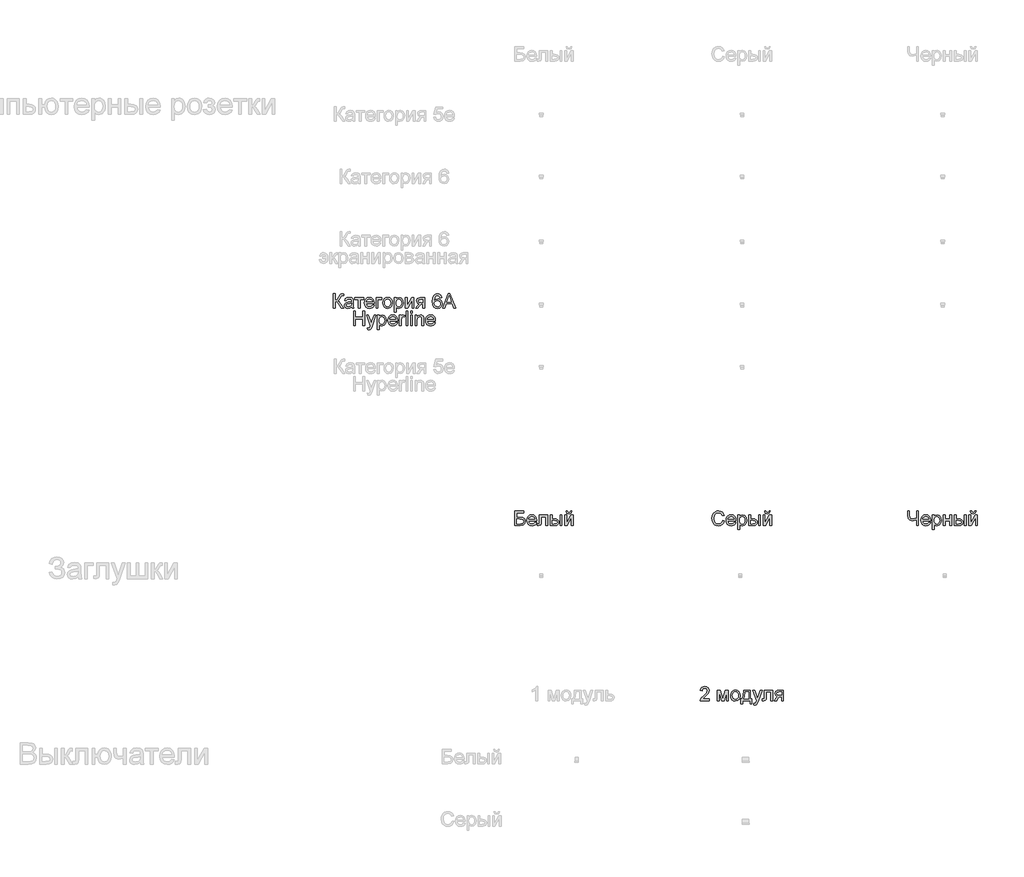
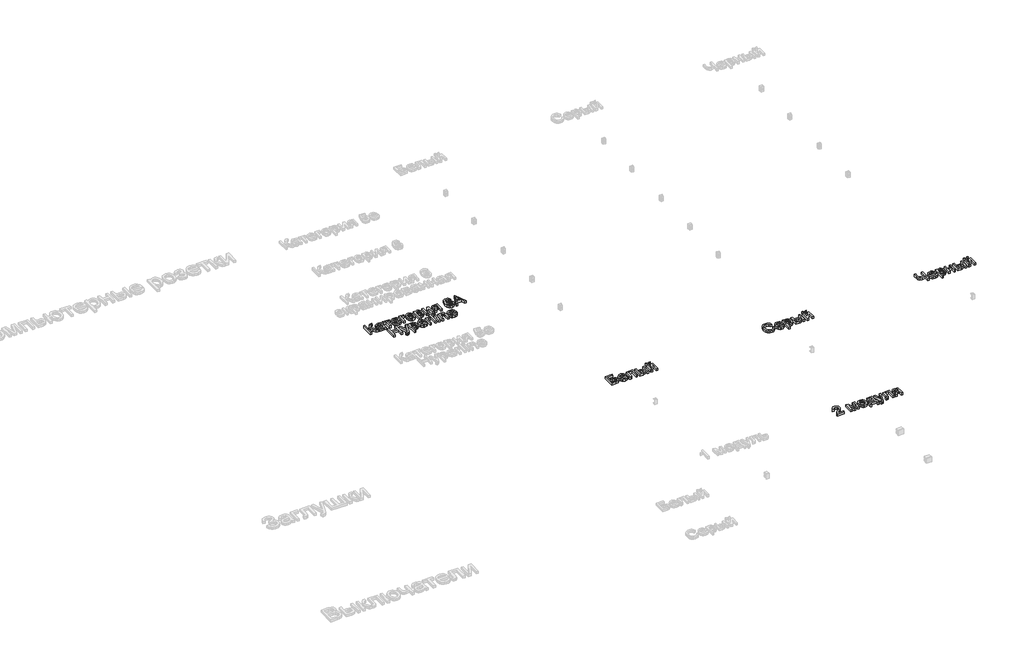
# One storey, part 7 of 15: 5 proxies.
"""IFC4 building model written with IfcOpenShell, lengths in millimetres."""

from ifc_helpers import new_model, si_unit, origin, origin_with_axes, place, context, project, spatial, polyline, outline, extrude, element, save

model = new_model("IFC4")

# Units and contexts
model_context = context("Model", 3, world=origin())
ifc_project = project(units=[si_unit("LENGTHUNIT", "METRE", prefix="MILLI")], contexts=[model_context])

# Site, building, storey
site = spatial("IfcSite", under=ifc_project)
building = spatial("IfcBuilding", under=site)
storey = spatial("IfcBuildingStorey", under=building, Name="Этаж 01", Elevation=0.0)

# Proxies
placement = place(None, origin())
element("IfcBuildingElementProxy", 1, Name="100 мм Arial", ObjectType="100 мм Arial", at=placement, inside=storey, context=model_context, shape_type="SweptSolid", body=[
    extrude(outline(polyline([(2682.1667539, -9736.1300533), (2682.1667539, -9748.687092), (2616.2423003, -9748.687092), (2617.591201, -9740.0296024), (2625.218621, -9726.7000115), (2640.9394449, -9712.1441472), (2662.6199572, -9691.2239244), (2668.0400853, -9676.9991539), (2662.9265255, -9665.4844475), (2649.5724091, -9660.7878207), (2635.6542069, -9665.3740829), (2630.368969, -9678.053749), (2617.8119302, -9676.4841191), (2620.8561537, -9664.3378819), (2627.4381757, -9655.4657945), (2637.2146397, -9650.039535), (2649.8421892, -9648.2307819), (2662.5617092, -9650.2418701), (2672.3197791, -9656.2751349), (2678.5277878, -9665.2882437), (2680.597124, -9676.2388645), (2678.3653066, -9688.1459784), (2670.946353, -9700.4577625), (2652.9569235, -9717.6623771), (2638.5114238, -9729.7411693), (2632.8460411, -9736.1300533), (2682.1667539, -9736.1300533)])), origin_with_axes(), (0.0, 0.0, 1.0), 20.0),
    extrude(outline(polyline([(2737.1037985, -9674.9144893), (2758.7107343, -9674.9144893), (2775.363526, -9733.9718122), (2793.3161673, -9674.9144893), (2814.0156609, -9674.9144893), (2814.0156609, -9748.687092), (2801.4586222, -9748.687092), (2801.4586222, -9689.2864126), (2783.4078789, -9748.687092), (2766.9267656, -9748.687092), (2749.6608373, -9686.4414585), (2749.6608373, -9748.687092), (2737.1037985, -9748.687092), (2737.1037985, -9674.9144893)])), origin_with_axes(), (0.0, 0.0, 1.0), 20.0),
    extrude(outline(polyline([(2829.7119594, -9711.8007907), (2832.4281548, -9694.0136962), (2840.576741, -9681.5118397), (2850.6444449, -9675.3866045), (2862.6987116, -9673.3448594), (2875.8903468, -9675.8311286), (2886.4271003, -9683.289936), (2893.3340848, -9695.1326706), (2895.6364129, -9710.7707211), (2891.5651855, -9733.1134209), (2879.7071225, -9745.7562988), (2862.6987116, -9750.2567219), (2849.3476609, -9747.7796498), (2838.8231702, -9740.3484335), (2831.9897621, -9728.2573786), (2829.7119594, -9711.8007907)]), holes=[polyline([(2842.2689982, -9711.7762652), (2843.7221321, -9723.1407532), (2848.0815337, -9731.2372227), (2854.6420959, -9736.084068), (2862.6987116, -9737.6996831), (2870.7185391, -9736.074871), (2877.2668386, -9731.2004345), (2881.6262403, -9722.9966661), (2883.0793742, -9711.3838577), (2881.6170432, -9700.3504636), (2877.2300504, -9692.3643586), (2870.6725539, -9687.5175133), (2862.6987116, -9685.9018982), (2854.6420959, -9687.5113819), (2848.0815337, -9692.3398331), (2843.7221321, -9700.4179086), (2842.2689982, -9711.7762652)])]), origin_with_axes(), (0.0, 0.0, 1.0), 20.0),
    extrude(outline(polyline([(2920.7504905, -9674.9144893), (2967.8393859, -9674.9144893), (2967.8393859, -9736.1300533), (2977.2571649, -9736.1300533), (2977.2571649, -9769.09228), (2964.7001262, -9769.09228), (2964.7001262, -9748.687092), (2912.9023412, -9748.687092), (2912.9023412, -9769.09228), (2900.3453025, -9769.09228), (2900.3453025, -9736.1300533), (2908.1934517, -9736.1300533), (2917.8932736, -9712.1809354), (2920.7504905, -9674.9144893)]), holes=[polyline([(2931.7378994, -9687.4715281), (2928.7948434, -9716.0804845), (2922.3201203, -9736.1300533), (2955.2823471, -9736.1300533), (2955.2823471, -9687.4715281), (2931.7378994, -9687.4715281)])]), origin_with_axes(), (0.0, 0.0, 1.0), 20.0),
    extrude(outline(polyline([(2991.3838336, -9776.9404293), (2989.8142037, -9764.8493744), (2996.190825, -9765.9530204), (3002.1505133, -9764.5673315), (3005.8048078, -9760.7045706), (3009.2383731, -9751.4584697), (3010.2193917, -9748.4173119), (2983.5356843, -9674.9144893), (2996.7794361, -9674.9144893), (3010.9306302, -9715.8720181), (3015.860249, -9732.2550296), (3020.7898677, -9717.7850045), (3035.3334692, -9674.9144893), (3048.4791192, -9674.9144893), (3022.8009559, -9750.4529256), (3016.1300291, -9766.8359371), (3008.8459656, -9775.6896305), (2999.0603045, -9778.5100591), (2991.3838336, -9776.9404293)])), origin_with_axes(), (0.0, 0.0, 1.0), 20.0),
    extrude(outline(polyline([(3065.1564363, -9674.9144893), (3121.6631108, -9674.9144893), (3121.6631108, -9748.6135156), (3109.106072, -9748.6135156), (3109.106072, -9687.4715281), (3077.7134751, -9687.4715281), (3077.7134751, -9722.6655723), (3076.8673465, -9738.901431), (3072.2197706, -9745.7562988), (3061.2323617, -9748.687092), (3051.0297677, -9748.0494299), (3051.0297677, -9736.1300533), (3056.6460995, -9736.1300533), (3062.323745, -9735.3575011), (3064.5923506, -9732.9049545), (3065.1564363, -9721.9543337), (3065.1564363, -9674.9144893)])), origin_with_axes(), (0.0, 0.0, 1.0), 20.0),
    extrude(outline(polyline([(3197.0053434, -9674.9144893), (3197.0053434, -9748.687092), (3184.4483046, -9748.687092), (3184.4483046, -9720.4337548), (3177.6056995, -9720.4337548), (3168.2860223, -9722.0279101), (3159.5304308, -9732.7455389), (3149.5240405, -9748.687092), (3135.0049645, -9748.687092), (3147.6110542, -9728.5271587), (3158.3041575, -9718.0793101), (3149.7202443, -9715.4489538), (3143.6869796, -9710.45189), (3138.9290391, -9696.2271195), (3140.5538512, -9687.6309436), (3145.4282877, -9680.8251267), (3153.3806701, -9676.3921486), (3164.2393204, -9674.9144893), (3197.0053434, -9674.9144893)]), holes=[polyline([(3184.4483046, -9687.4715281), (3167.8936148, -9687.4715281), (3154.4904475, -9690.3777958), (3151.4860779, -9697.1836127), (3155.9129245, -9705.2892794), (3171.5969603, -9707.8767161), (3184.4483046, -9707.8767161), (3184.4483046, -9687.4715281)])]), origin_with_axes(), (0.0, 0.0, 1.0), 20.0),
])
element("IfcBuildingElementProxy", 2, Name="100 мм Arial", ObjectType="100 мм Arial", at=placement, inside=storey, context=model_context, shape_type="SweptSolid", body=[
    extrude(outline(polyline([(59.61125, -6908.8364021), (72.1682888, -6908.8364021), (72.1682888, -6952.7860378), (86.2091183, -6949.4628371), (96.0070421, -6932.6506299), (102.9354863, -6918.6098004), (110.7836356, -6911.6568307), (122.0040364, -6908.8364021), (130.2445931, -6908.9835549), (130.2445931, -6921.5405937), (127.4732154, -6921.4670173), (124.7018377, -6921.3934409), (114.8916512, -6924.4100732), (107.4359094, -6937.334994), (98.5454279, -6953.0803434), (89.8756755, -6958.2797423), (99.5693661, -6963.9573877), (109.1281666, -6975.7909252), (130.2445931, -7009.2927123), (115.6764661, -7009.2927123), (97.8219266, -6980.9903241), (85.2526251, -6966.2137306), (72.1682888, -6962.2038169), (72.1682888, -7009.2927123), (59.61125, -7009.2927123), (59.61125, -6908.8364021)])), origin_with_axes(), (0.0, 0.0, 1.0), 20.0),
    extrude(outline(polyline([(186.7512676, -6999.8749332), (174.5743735, -7008.38527), (161.1221552, -7010.8623421), (150.6283213, -7009.37242), (142.887471, -7004.9026538), (138.1142021, -6998.115231), (136.5231125, -6989.6723392), (138.9266082, -6979.7395253), (145.2419158, -6972.5290382), (154.0342955, -6968.4087599), (164.8990771, -6966.520299), (186.6776912, -6962.2038169), (186.7512676, -6959.4079137), (183.2931768, -6950.1372874), (169.4117629, -6946.5075184), (156.7075713, -6948.9232768), (150.6497811, -6957.4949273), (138.0927423, -6955.9252975), (143.5251331, -6943.6625643), (154.4634911, -6936.4766027), (171.0304436, -6933.9504796), (186.2484955, -6936.1822971), (194.8446715, -6941.7863661), (198.6951697, -6950.3089657), (199.3083063, -6961.2963746), (199.3083063, -6976.9190967), (199.9459685, -6998.734499), (202.447566, -7009.2927123), (189.8905273, -7009.2927123), (186.7512676, -6999.8749332)]), holes=[polyline([(186.7512676, -6974.7608556), (166.4932324, -6978.6113539), (155.6897644, -6980.6469676), (150.7969339, -6983.9579055), (149.0801513, -6988.7894224), (152.8202849, -6995.5829766), (163.7954311, -6998.3053033), (176.4996226, -6995.3009337), (184.6911284, -6988.0291329), (186.6776912, -6978.3170483), (186.7512676, -6974.7608556)])]), origin_with_axes(), (0.0, 0.0, 1.0), 20.0),
    extrude(outline(polyline([(210.2957153, -6935.5201095), (269.9416494, -6935.5201095), (269.9416494, -6948.0771483), (246.3972017, -6948.0771483), (246.3972017, -7009.2927123), (233.8401629, -7009.2927123), (233.8401629, -6948.0771483), (210.2957153, -6948.0771483), (210.2957153, -6935.5201095)])), origin_with_axes(), (0.0, 0.0, 1.0), 20.0),
    extrude(outline(polyline([(332.5796905, -6987.3178944), (344.8914746, -6988.8875243), (340.4554308, -6998.1642819), (333.3767681, -7005.0988575), (323.8149019, -7009.421471), (311.9292478, -7010.8623421), (297.1955739, -7008.376073), (285.8586771, -7000.9172655), (278.6297959, -6988.9702977), (276.2201688, -6973.0195475), (278.6543213, -6956.5323028), (285.9567789, -6944.2021246), (297.1403916, -6936.5133909), (311.2180093, -6933.9504796), (324.8572342, -6936.5072595), (335.7557383, -6944.1775991), (342.9018461, -6956.4832519), (345.283882, -6972.9459711), (345.2103056, -6976.3304855), (288.7772076, -6976.3304855), (290.950777, -6985.7298705), (295.9999574, -6992.6399206), (303.2870866, -6996.8889577), (312.1745025, -6998.3053033), (324.4862866, -6995.6810784), (332.5796905, -6987.3178944)]), holes=[polyline([(288.7772076, -6963.7734467), (332.7268433, -6963.7734467), (327.6991227, -6952.3936303), (320.3782709, -6947.9790464), (311.1689583, -6946.5075184), (295.7056518, -6951.2041452), (290.8404124, -6956.694784), (288.7772076, -6963.7734467)])]), origin_with_axes(), (0.0, 0.0, 1.0), 20.0),
    extrude(outline(polyline([(357.8409208, -6935.5201095), (398.6512968, -6935.5201095), (398.6512968, -6948.0771483), (370.3979596, -6948.0771483), (370.3979596, -7009.2927123), (357.8409208, -7009.2927123), (357.8409208, -6935.5201095)])), origin_with_axes(), (0.0, 0.0, 1.0), 20.0),
    extrude(outline(polyline([(404.9298162, -6972.4064109), (407.6460116, -6954.6193164), (415.7945978, -6942.1174599), (425.8623017, -6935.9922247), (437.9165684, -6933.9504796), (451.1082036, -6936.4367488), (461.6449571, -6943.8955562), (468.5519416, -6955.7382908), (470.8542697, -6971.3763413), (466.7830423, -6993.7190411), (454.9249793, -7006.361919), (437.9165684, -7010.8623421), (424.5655177, -7008.38527), (414.0410269, -7000.9540537), (407.2076189, -6988.8629988), (404.9298162, -6972.4064109)]), holes=[polyline([(417.4868549, -6972.3818854), (418.9399888, -6983.7463734), (423.2993905, -6991.842843), (429.8599527, -6996.6896882), (437.9165684, -6998.3053033), (445.9363959, -6996.6804912), (452.4846954, -6991.8060548), (456.8440971, -6983.6022863), (458.2972309, -6971.9894779), (456.8349, -6960.9560838), (452.4479072, -6952.9699788), (445.8904107, -6948.1231335), (437.9165684, -6946.5075184), (429.8599527, -6948.1170021), (423.2993905, -6952.9454533), (418.9399888, -6961.0235288), (417.4868549, -6972.3818854)])]), origin_with_axes(), (0.0, 0.0, 1.0), 20.0),
    extrude(outline(polyline([(484.9809383, -7037.5460495), (484.9809383, -6935.5201095), (497.5379771, -6935.5201095), (497.5379771, -6947.8318936), (506.2199922, -6937.4208331), (517.9431651, -6933.9504796), (533.8601927, -6938.806522), (544.2589905, -6952.4917322), (547.7661322, -6971.8423251), (543.8052694, -6992.1861995), (532.3028256, -7006.043088), (516.4225862, -7010.8623421), (505.4964909, -7007.6372433), (497.5379771, -6999.4825257), (497.5379771, -7037.5460495), (484.9809383, -7037.5460495)]), holes=[polyline([(497.5379771, -6972.9950221), (498.8960748, -6984.2522111), (502.9703679, -6992.1248858), (508.9821728, -6996.760199), (516.152806, -6998.3053033), (523.4399352, -6996.7050167), (529.6050243, -6991.9041566), (533.8080761, -6983.7433077), (535.2090934, -6972.0630543), (533.8417986, -6960.867179), (529.7399144, -6952.8841397), (523.7373065, -6948.1016737), (516.6678408, -6946.5075184), (509.570784, -6948.2028413), (503.3382499, -6953.2888099), (498.9880453, -6961.6060086), (497.5379771, -6972.9950221)])]), origin_with_axes(), (0.0, 0.0, 1.0), 20.0),
    extrude(outline(polyline([(561.8928008, -6935.5201095), (574.4498395, -6935.5201095), (574.4498395, -6991.7815293), (605.3028762, -6935.5201095), (621.5387349, -6935.5201095), (621.5387349, -7009.2927123), (608.9816962, -7009.2927123), (608.9816962, -6953.374649), (578.3248632, -7009.2927123), (561.8928008, -7009.2927123), (561.8928008, -6935.5201095)])), origin_with_axes(), (0.0, 0.0, 1.0), 20.0),
    extrude(outline(polyline([(696.8809675, -6935.5201095), (696.8809675, -7009.2927123), (684.3239288, -7009.2927123), (684.3239288, -6981.039375), (677.4813237, -6981.039375), (668.1616465, -6982.6335303), (659.406055, -6993.3511591), (649.3996647, -7009.2927123), (634.8805886, -7009.2927123), (647.4866783, -6989.1327789), (658.1797817, -6978.6849303), (649.5958684, -6976.054574), (643.5626037, -6971.0575102), (638.8046632, -6956.8327397), (640.4294754, -6948.2365638), (645.3039118, -6941.4307469), (653.2562943, -6936.9977688), (664.1149445, -6935.5201095), (696.8809675, -6935.5201095)]), holes=[polyline([(684.3239288, -6948.0771483), (667.769239, -6948.0771483), (654.3660716, -6950.983416), (651.361702, -6957.7892329), (655.7885487, -6965.8948996), (671.4725844, -6968.4823363), (684.3239288, -6968.4823363), (684.3239288, -6948.0771483)])]), origin_with_axes(), (0.0, 0.0, 1.0), 20.0),
    extrude(outline(polyline([(816.1728358, -6935.5201095), (803.6157971, -6937.0897393), (798.8578566, -6926.6173652), (786.2762924, -6921.3934409), (774.9455269, -6924.4345987), (766.3738764, -6935.8512033), (762.8054211, -6958.2306913), (773.8786691, -6948.2120383), (787.6006676, -6944.9378886), (799.2012131, -6947.1758374), (808.9378233, -6953.8896838), (815.5413051, -6964.1474601), (817.7424657, -6977.0171985), (813.5976619, -6994.3444405), (802.19332, -7006.6071737), (785.7367321, -7010.8623421), (771.4905018, -7008.0419135), (760.144408, -6999.5806276), (752.7223887, -6984.6446186), (750.2483823, -6962.4000206), (752.9952345, -6937.3901763), (761.2357912, -6920.2897949), (772.4868489, -6911.6997503), (787.0611073, -6908.8364021), (798.0791731, -6910.6083671), (806.9022096, -6915.9242619), (813.0826271, -6924.3671537), (816.1728358, -6935.5201095)]), holes=[polyline([(762.8054211, -6976.8209948), (765.7116888, -6987.6980391), (773.4372107, -6995.5952393), (784.7557135, -6998.3053033), (793.0422554, -6996.9012204), (799.5568324, -6992.6889715), (803.7782783, -6986.0670956), (805.1854269, -6977.4341315), (803.7966724, -6969.1475895), (799.6304088, -6962.8292163), (793.0054672, -6958.8284996), (784.2406787, -6957.4949273), (769.0471523, -6962.8292163), (764.3658539, -6968.9943054), (762.8054211, -6976.8209948)])]), origin_with_axes(), (0.0, 0.0, 1.0), 20.0),
    extrude(outline(polyline([(821.7401167, -7009.2927123), (861.8392542, -6908.8364021), (872.5323575, -6908.8364021), (912.631495, -7009.2927123), (899.3632177, -7009.2927123), (887.860774, -6977.9001153), (846.4863122, -6977.9001153), (835.008394, -7009.2927123), (821.7401167, -7009.2927123)]), holes=[polyline([(851.0970999, -6965.3430766), (883.2745118, -6965.3430766), (874.2246147, -6940.645932), (867.1858058, -6921.3934409), (860.9318119, -6938.4876909), (851.0970999, -6965.3430766)])]), origin_with_axes(), (0.0, 0.0, 1.0), 20.0),
    extrude(outline(polyline([(200.0931213, -7131.2675301), (200.0931213, -7030.81122), (212.65016, -7030.81122), (212.65016, -7071.621596), (266.0175748, -7071.621596), (266.0175748, -7030.81122), (278.5746136, -7030.81122), (278.5746136, -7131.2675301), (266.0175748, -7131.2675301), (266.0175748, -7084.1786347), (212.65016, -7084.1786347), (212.65016, -7131.2675301), (200.0931213, -7131.2675301)])), origin_with_axes(), (0.0, 0.0, 1.0), 20.0),
    extrude(outline(polyline([(298.9798016, -7159.5208673), (297.4101717, -7147.4298124), (303.786793, -7148.5334584), (309.7464813, -7147.1477696), (313.4007758, -7143.2850086), (316.8343411, -7134.0389078), (317.8153597, -7130.99775), (291.1316523, -7057.4949273), (304.3754042, -7057.4949273), (318.5265982, -7098.4524561), (323.456217, -7114.8354677), (328.3858357, -7100.3654425), (342.9294373, -7057.4949273), (356.0750872, -7057.4949273), (330.3969239, -7133.0333637), (323.7259971, -7149.4163752), (316.4419336, -7158.2700685), (306.6562725, -7161.0904972), (298.9798016, -7159.5208673)])), origin_with_axes(), (0.0, 0.0, 1.0), 20.0),
    extrude(outline(polyline([(366.4738849, -7159.5208673), (366.4738849, -7057.4949273), (379.0309237, -7057.4949273), (379.0309237, -7069.8067114), (387.7129388, -7059.395651), (399.4361117, -7055.9252975), (415.3531394, -7060.7813398), (425.7519371, -7074.46655), (429.2590788, -7093.817143), (425.298216, -7114.1610173), (413.7957723, -7128.0179058), (397.9155328, -7132.8371599), (386.9894375, -7129.6120611), (379.0309237, -7121.4573436), (379.0309237, -7159.5208673), (366.4738849, -7159.5208673)]), holes=[polyline([(379.0309237, -7094.9698399), (380.3890214, -7106.227029), (384.4633145, -7114.0997037), (390.4751194, -7118.7350168), (397.6457527, -7120.2801212), (404.9328819, -7118.6798345), (411.097971, -7113.8789745), (415.3010228, -7105.7181255), (416.70204, -7094.0378722), (415.3347453, -7082.8419968), (411.232861, -7074.8589575), (405.2302531, -7070.0764916), (398.1607875, -7068.4823363), (391.0637306, -7070.1776591), (384.8311965, -7075.2636277), (380.4809919, -7083.5808265), (379.0309237, -7094.9698399)])]), origin_with_axes(), (0.0, 0.0, 1.0), 20.0),
    extrude(outline(polyline([(495.0363795, -7109.2927123), (507.3481636, -7110.8623421), (502.9121199, -7120.1390997), (495.8334572, -7127.0736754), (486.271591, -7131.3962888), (474.3859369, -7132.8371599), (459.652263, -7130.3508908), (448.3153661, -7122.8920833), (441.0864849, -7110.9451156), (438.6768579, -7094.9943654), (441.1110104, -7078.5071206), (448.413468, -7066.1769424), (459.5970807, -7058.4882087), (473.6746983, -7055.9252975), (487.3139233, -7058.4820774), (498.2124274, -7066.152417), (505.3585352, -7078.4580697), (507.7405711, -7094.920789), (507.6669947, -7098.3053033), (451.2338966, -7098.3053033), (453.4074661, -7107.7046883), (458.4566465, -7114.6147385), (465.7437757, -7118.8637755), (474.6311915, -7120.2801212), (486.9429756, -7117.6558963), (495.0363795, -7109.2927123)]), holes=[polyline([(451.2338966, -7085.7482646), (495.1835323, -7085.7482646), (490.1558117, -7074.3684482), (482.83496, -7069.9538642), (473.6256474, -7068.4823363), (458.1623409, -7073.1789631), (453.2971015, -7078.6696018), (451.2338966, -7085.7482646)])]), origin_with_axes(), (0.0, 0.0, 1.0), 20.0),
    extrude(outline(polyline([(520.2976099, -7131.2675301), (520.2976099, -7057.4949273), (531.2850188, -7057.4949273), (531.2850188, -7068.4087599), (539.0841171, -7058.3533187), (546.9322663, -7055.9252975), (559.538356, -7059.8003212), (555.3445013, -7071.0575102), (546.5153334, -7068.4823363), (539.4152109, -7070.9594084), (534.8902623, -7077.8265389), (532.8546486, -7092.4927678), (532.8546486, -7131.2675301), (520.2976099, -7131.2675301)])), origin_with_axes(), (0.0, 0.0, 1.0), 20.0),
    extrude(outline(polyline([(567.3865052, -7131.2675301), (567.3865052, -7030.81122), (579.943544, -7030.81122), (579.943544, -7131.2675301), (567.3865052, -7131.2675301)])), origin_with_axes(), (0.0, 0.0, 1.0), 20.0),
    extrude(outline(polyline([(598.7791022, -7043.3682587), (598.7791022, -7030.81122), (611.3361409, -7030.81122), (611.3361409, -7043.3682587), (598.7791022, -7043.3682587)])), origin_with_axes(), (0.0, 0.0, 1.0), 20.0),
    extrude(outline(polyline([(598.7791022, -7131.2675301), (598.7791022, -7057.4949273), (611.3361409, -7057.4949273), (611.3361409, -7131.2675301), (598.7791022, -7131.2675301)])), origin_with_axes(), (0.0, 0.0, 1.0), 20.0),
    extrude(outline(polyline([(630.1716991, -7131.2675301), (630.1716991, -7057.4949273), (642.7287379, -7057.4949273), (642.7287379, -7067.7956232), (652.3304579, -7058.8928789), (665.4393197, -7055.9252975), (677.2973827, -7058.3165305), (685.3907866, -7064.5950498), (689.1554456, -7073.8288879), (689.8176332, -7085.9689938), (689.8176332, -7131.2675301), (677.2605945, -7131.2675301), (677.2605945, -7087.6612509), (675.813592, -7076.5512147), (670.7000322, -7070.6773655), (662.0793308, -7068.4823363), (648.4554342, -7073.411955), (644.160412, -7080.5549971), (642.7287379, -7092.1248858), (642.7287379, -7131.2675301), (630.1716991, -7131.2675301)])), origin_with_axes(), (0.0, 0.0, 1.0), 20.0),
    extrude(outline(polyline([(758.7341937, -7109.2927123), (771.0459778, -7110.8623421), (766.609934, -7120.1390997), (759.5312713, -7127.0736754), (749.9694051, -7131.3962888), (738.083751, -7132.8371599), (723.3500771, -7130.3508908), (712.0131803, -7122.8920833), (704.7842991, -7110.9451156), (702.374672, -7094.9943654), (704.8088245, -7078.5071206), (712.1112821, -7066.1769424), (723.2948948, -7058.4882087), (737.3725125, -7055.9252975), (751.0117375, -7058.4820774), (761.9102416, -7066.152417), (769.0563493, -7078.4580697), (771.4383852, -7094.920789), (771.3648088, -7098.3053033), (714.9317108, -7098.3053033), (717.1052802, -7107.7046883), (722.1544606, -7114.6147385), (729.4415898, -7118.8637755), (738.3290057, -7120.2801212), (750.6407898, -7117.6558963), (758.7341937, -7109.2927123)]), holes=[polyline([(714.9317108, -7085.7482646), (758.8813465, -7085.7482646), (753.8536259, -7074.3684482), (746.5327742, -7069.9538642), (737.3234615, -7068.4823363), (721.860155, -7073.1789631), (716.9949156, -7078.6696018), (714.9317108, -7085.7482646)])]), origin_with_axes(), (0.0, 0.0, 1.0), 20.0),
])
element("IfcBuildingElementProxy", 3, Name="100 мм Arial", ObjectType="100 мм Arial", at=placement, inside=storey, context=model_context, shape_type="SweptSolid", body=[
    extrude(outline(polyline([(1324.163946, -8425.4028777), (1386.9491399, -8425.4028777), (1386.9491399, -8437.9599165), (1336.7209848, -8437.9599165), (1336.7209848, -8467.7828835), (1360.240907, -8467.7828835), (1380.9649261, -8470.333532), (1393.3012356, -8479.9720403), (1397.9365488, -8496.4531537), (1394.6378736, -8510.7637633), (1384.7908988, -8521.6408076), (1362.4972499, -8525.8591879), (1324.163946, -8525.8591879), (1324.163946, -8425.4028777)]), holes=[polyline([(1336.7209848, -8513.3021491), (1363.6254214, -8513.3021491), (1379.9348565, -8509.1573453), (1384.0183466, -8503.9763405), (1385.37951, -8496.7229338), (1382.2647758, -8486.8882218), (1373.5950234, -8481.639772), (1354.6736262, -8480.3399223), (1336.7209848, -8480.3399223), (1336.7209848, -8513.3021491)])]), origin_with_axes(), (0.0, 0.0, 1.0), 20.0),
    extrude(outline(polyline([(1465.2834794, -8503.88437), (1477.5952635, -8505.4539999), (1473.1592198, -8514.7307575), (1466.080557, -8521.6653331), (1456.5186908, -8525.9879466), (1444.6330367, -8527.4288177), (1429.8993628, -8524.9425485), (1418.562466, -8517.4837411), (1411.3335848, -8505.5367733), (1408.9239577, -8489.5860231), (1411.3581102, -8473.0987784), (1418.6605678, -8460.7686002), (1429.8441805, -8453.0798665), (1443.9217982, -8450.5169552), (1457.5610232, -8453.0737351), (1468.4595273, -8460.7440747), (1475.605635, -8473.0497274), (1477.9876709, -8489.5124467), (1477.9140945, -8492.8969611), (1421.4809965, -8492.8969611), (1423.6545659, -8502.2963461), (1428.7037463, -8509.2063962), (1435.9908755, -8513.4554332), (1444.8782914, -8514.8717789), (1457.1900755, -8512.247554), (1465.2834794, -8503.88437)]), holes=[polyline([(1421.4809965, -8480.3399223), (1465.4306322, -8480.3399223), (1460.4029116, -8468.9601059), (1453.0820599, -8464.545522), (1443.8727473, -8463.073994), (1428.4094407, -8467.7706208), (1423.5442013, -8473.2612596), (1421.4809965, -8480.3399223)])]), origin_with_axes(), (0.0, 0.0, 1.0), 20.0),
    extrude(outline(polyline([(1496.8232291, -8452.0865851), (1553.3299035, -8452.0865851), (1553.3299035, -8525.7856115), (1540.7728648, -8525.7856115), (1540.7728648, -8464.6436239), (1509.3802679, -8464.6436239), (1509.3802679, -8499.8376681), (1508.5341393, -8516.0735268), (1503.8865634, -8522.9283946), (1492.8991545, -8525.8591879), (1482.6965605, -8525.2215257), (1482.6965605, -8513.3021491), (1488.3128923, -8513.3021491), (1493.9905377, -8512.5295969), (1496.2591434, -8510.0770503), (1496.8232291, -8499.1264295), (1496.8232291, -8452.0865851)])), origin_with_axes(), (0.0, 0.0, 1.0), 20.0),
    extrude(outline(polyline([(1641.2291749, -8452.0865851), (1653.7862137, -8452.0865851), (1653.7862137, -8525.8591879), (1641.2291749, -8525.8591879), (1641.2291749, -8452.0865851)])), origin_with_axes(), (0.0, 0.0, 1.0), 20.0),
    extrude(outline(polyline([(1572.1654617, -8452.0865851), (1584.7225005, -8452.0865851), (1584.7225005, -8478.7702925), (1600.2471207, -8478.7702925), (1613.6656164, -8480.342988), (1623.6076274, -8485.0610746), (1629.7604537, -8492.5444075), (1631.8113959, -8502.412842), (1630.0915475, -8511.3983598), (1624.9320025, -8518.9797945), (1615.9955357, -8524.1393395), (1602.944922, -8525.8591879), (1572.1654617, -8525.8591879), (1572.1654617, -8452.0865851)]), holes=[polyline([(1584.7225005, -8513.3021491), (1597.6228958, -8513.3021491), (1614.2756874, -8510.6656615), (1619.2543571, -8502.4373675), (1615.5632744, -8494.7118456), (1599.266102, -8491.3273312), (1584.7225005, -8491.3273312), (1584.7225005, -8513.3021491)])]), origin_with_axes(), (0.0, 0.0, 1.0), 20.0),
    extrude(outline(polyline([(1672.6217719, -8452.0865851), (1685.1788106, -8452.0865851), (1685.1788106, -8508.3480049), (1716.0318473, -8452.0865851), (1732.267706, -8452.0865851), (1732.267706, -8525.8591879), (1719.7106672, -8525.8591879), (1719.7106672, -8469.9411246), (1689.0538343, -8525.8591879), (1672.6217719, -8525.8591879), (1672.6217719, -8452.0865851)])), origin_with_axes(), (0.0, 0.0, 1.0), 20.0),
    extrude(outline(polyline([(1713.4321479, -8425.4028777), (1722.8499269, -8425.4028777), (1716.7553485, -8439.3701308), (1703.2295539, -8444.2384359), (1688.5878504, -8439.406919), (1682.0395509, -8425.4028777), (1691.45733, -8425.4028777), (1694.9889972, -8432.4784747), (1702.1013824, -8434.8206568), (1709.9004807, -8432.5520511), (1713.4321479, -8425.4028777)])), origin_with_axes(), (0.0, 0.0, 1.0), 20.0),
])
element("IfcBuildingElementProxy", 4, Name="100 мм Arial", ObjectType="100 мм Arial", at=placement, inside=storey, context=model_context, shape_type="SweptSolid", body=[
    extrude(outline(polyline([(2773.9900999, -8490.1501089), (2786.5471386, -8493.3874704), (2780.7529972, -8508.0199768), (2771.6601806, -8518.7100144), (2759.7162785, -8525.2491169), (2745.3688806, -8527.4288177), (2730.8038193, -8525.7794801), (2719.2369963, -8520.8314673), (2710.3710402, -8512.7564575), (2703.9085798, -8501.726129), (2698.6478673, -8474.8707433), (2700.1347237, -8460.2229085), (2704.5952928, -8447.5738993), (2711.7965829, -8437.32532), (2721.5056019, -8429.8787753), (2733.0203083, -8425.3446297), (2745.6386608, -8423.8332479), (2759.4066444, -8425.7891538), (2770.7895265, -8431.6568716), (2779.4316877, -8441.0746507), (2784.9775088, -8453.6807404), (2772.42047, -8456.6728473), (2762.1197742, -8441.2340662), (2745.1481514, -8436.3902866), (2725.5032529, -8441.7613638), (2714.4054794, -8456.182338), (2711.204906, -8474.8462179), (2714.9940906, -8496.4776792), (2726.7908399, -8510.2977795), (2744.1180819, -8514.8717789), (2754.599653, -8513.3144118), (2763.3337847, -8508.6423105), (2769.9280695, -8500.9045258), (2773.9900999, -8490.1501089)])), origin_with_axes(), (0.0, 0.0, 1.0), 20.0),
    extrude(outline(polyline([(2853.8940692, -8503.88437), (2866.2058533, -8505.4539999), (2861.7698096, -8514.7307575), (2854.6911469, -8521.6653331), (2845.1292807, -8525.9879466), (2833.2436266, -8527.4288177), (2818.5099527, -8524.9425485), (2807.1730558, -8517.4837411), (2799.9441746, -8505.5367733), (2797.5345476, -8489.5860231), (2799.9687001, -8473.0987784), (2807.2711577, -8460.7686002), (2818.4547704, -8453.0798665), (2832.532388, -8450.5169552), (2846.171613, -8453.0737351), (2857.0701171, -8460.7440747), (2864.2162249, -8473.0497274), (2866.5982608, -8489.5124467), (2866.5246844, -8492.8969611), (2810.0915863, -8492.8969611), (2812.2651558, -8502.2963461), (2817.3143362, -8509.2063962), (2824.6014654, -8513.4554332), (2833.4888812, -8514.8717789), (2845.8006653, -8512.247554), (2853.8940692, -8503.88437)]), holes=[polyline([(2810.0915863, -8480.3399223), (2854.041222, -8480.3399223), (2849.0135014, -8468.9601059), (2841.6926497, -8464.545522), (2832.4833371, -8463.073994), (2817.0200306, -8467.7706208), (2812.1547912, -8473.2612596), (2810.0915863, -8480.3399223)])]), origin_with_axes(), (0.0, 0.0, 1.0), 20.0),
    extrude(outline(polyline([(2879.1552996, -8554.1125251), (2879.1552996, -8452.0865851), (2891.7123383, -8452.0865851), (2891.7123383, -8464.3983692), (2900.3943534, -8453.9873087), (2912.1175263, -8450.5169552), (2928.034554, -8455.3729976), (2938.4333517, -8469.0582078), (2941.9404934, -8488.4088007), (2937.9796306, -8508.7526751), (2926.4771869, -8522.6095636), (2910.5969474, -8527.4288177), (2899.6708522, -8524.2037189), (2891.7123383, -8516.0490013), (2891.7123383, -8554.1125251), (2879.1552996, -8554.1125251)]), holes=[polyline([(2891.7123383, -8489.5614977), (2893.070436, -8500.8186867), (2897.1447291, -8508.6913614), (2903.1565341, -8513.3266745), (2910.3271673, -8514.8717789), (2917.6142965, -8513.2714923), (2923.7793856, -8508.4706322), (2927.9824374, -8500.3097833), (2929.3834546, -8488.6295299), (2928.0161599, -8477.4336546), (2923.9142756, -8469.4506153), (2917.9116677, -8464.6681493), (2910.8422021, -8463.073994), (2903.7451453, -8464.7693169), (2897.5126111, -8469.8552855), (2893.1624065, -8478.1724842), (2891.7123383, -8489.5614977)])]), origin_with_axes(), (0.0, 0.0, 1.0), 20.0),
    extrude(outline(polyline([(3025.1308752, -8452.0865851), (3037.687914, -8452.0865851), (3037.687914, -8525.8591879), (3025.1308752, -8525.8591879), (3025.1308752, -8452.0865851)])), origin_with_axes(), (0.0, 0.0, 1.0), 20.0),
    extrude(outline(polyline([(2956.067162, -8452.0865851), (2968.6242008, -8452.0865851), (2968.6242008, -8478.7702925), (2984.148821, -8478.7702925), (2997.5673168, -8480.342988), (3007.5093277, -8485.0610746), (3013.662154, -8492.5444075), (3015.7130962, -8502.412842), (3013.9932478, -8511.3983598), (3008.8337029, -8518.9797945), (2999.8972361, -8524.1393395), (2986.8466223, -8525.8591879), (2956.067162, -8525.8591879), (2956.067162, -8452.0865851)]), holes=[polyline([(2968.6242008, -8513.3021491), (2981.5245961, -8513.3021491), (2998.1773877, -8510.6656615), (3003.1560574, -8502.4373675), (2999.4649747, -8494.7118456), (2983.1678023, -8491.3273312), (2968.6242008, -8491.3273312), (2968.6242008, -8513.3021491)])]), origin_with_axes(), (0.0, 0.0, 1.0), 20.0),
    extrude(outline(polyline([(3097.3338482, -8425.4028777), (3106.7516272, -8425.4028777), (3100.6570489, -8439.3701308), (3087.1312542, -8444.2384359), (3072.4895508, -8439.406919), (3065.9412512, -8425.4028777), (3075.3590303, -8425.4028777), (3078.8906975, -8432.4784747), (3086.0030827, -8434.8206568), (3093.802181, -8432.5520511), (3097.3338482, -8425.4028777)])), origin_with_axes(), (0.0, 0.0, 1.0), 20.0),
    extrude(outline(polyline([(3056.5234722, -8452.0865851), (3069.0805109, -8452.0865851), (3069.0805109, -8508.3480049), (3099.9335476, -8452.0865851), (3116.1694063, -8452.0865851), (3116.1694063, -8525.8591879), (3103.6123675, -8525.8591879), (3103.6123675, -8469.9411246), (3072.9555346, -8525.8591879), (3056.5234722, -8525.8591879), (3056.5234722, -8452.0865851)])), origin_with_axes(), (0.0, 0.0, 1.0), 20.0),
])
element("IfcBuildingElementProxy", 5, Name="100 мм Arial", ObjectType="100 мм Arial", at=placement, inside=storey, context=model_context, shape_type="SweptSolid", body=[
    extrude(outline(polyline([(4139.4582433, -8525.8591879), (4126.9012045, -8525.8591879), (4126.9012045, -8485.637423), (4095.8029132, -8492.8969611), (4077.4456016, -8487.9305541), (4066.8015492, -8475.3244644), (4064.1160106, -8455.3239466), (4064.1160106, -8425.4028777), (4076.6730494, -8425.4028777), (4076.6730494, -8453.6316895), (4078.1813656, -8467.2096008), (4082.7063141, -8475.1773116), (4097.2008647, -8480.3399223), (4126.9012045, -8474.1104539), (4126.9012045, -8425.4028777), (4139.4582433, -8425.4028777), (4139.4582433, -8525.8591879)])), origin_with_axes(), (0.0, 0.0, 1.0), 20.0),
    extrude(outline(polyline([(4211.5140634, -8503.88437), (4223.8258475, -8505.4539999), (4219.3898038, -8514.7307575), (4212.311141, -8521.6653331), (4202.7492748, -8525.9879466), (4190.8636207, -8527.4288177), (4176.1299468, -8524.9425485), (4164.79305, -8517.4837411), (4157.5641688, -8505.5367733), (4155.1545417, -8489.5860231), (4157.5886943, -8473.0987784), (4164.8911519, -8460.7686002), (4176.0747645, -8453.0798665), (4190.1523822, -8450.5169552), (4203.7916072, -8453.0737351), (4214.6901113, -8460.7440747), (4221.836219, -8473.0497274), (4224.2182549, -8489.5124467), (4224.1446785, -8492.8969611), (4167.7115805, -8492.8969611), (4169.8851499, -8502.2963461), (4174.9343303, -8509.2063962), (4182.2214595, -8513.4554332), (4191.1088754, -8514.8717789), (4203.4206595, -8512.247554), (4211.5140634, -8503.88437)]), holes=[polyline([(4167.7115805, -8480.3399223), (4211.6612162, -8480.3399223), (4206.6334956, -8468.9601059), (4199.3126439, -8464.545522), (4190.1033313, -8463.073994), (4174.6400247, -8467.7706208), (4169.7747853, -8473.2612596), (4167.7115805, -8480.3399223)])]), origin_with_axes(), (0.0, 0.0, 1.0), 20.0),
    extrude(outline(polyline([(4236.7752937, -8554.1125251), (4236.7752937, -8452.0865851), (4249.3323325, -8452.0865851), (4249.3323325, -8464.3983692), (4258.0143476, -8453.9873087), (4269.7375205, -8450.5169552), (4285.6545481, -8455.3729976), (4296.0533459, -8469.0582078), (4299.5604876, -8488.4088007), (4295.5996247, -8508.7526751), (4284.097181, -8522.6095636), (4268.2169416, -8527.4288177), (4257.2908463, -8524.2037189), (4249.3323325, -8516.0490013), (4249.3323325, -8554.1125251), (4236.7752937, -8554.1125251)]), holes=[polyline([(4249.3323325, -8489.5614977), (4250.6904302, -8500.8186867), (4254.7647233, -8508.6913614), (4260.7765282, -8513.3266745), (4267.9471614, -8514.8717789), (4275.2342906, -8513.2714923), (4281.3993797, -8508.4706322), (4285.6024315, -8500.3097833), (4287.0034488, -8488.6295299), (4285.636154, -8477.4336546), (4281.5342698, -8469.4506153), (4275.5316619, -8464.6681493), (4268.4621962, -8463.073994), (4261.3651394, -8464.7693169), (4255.1326053, -8469.8552855), (4250.7824007, -8478.1724842), (4249.3323325, -8489.5614977)])]), origin_with_axes(), (0.0, 0.0, 1.0), 20.0),
    extrude(outline(polyline([(4313.6871562, -8452.0865851), (4326.2441949, -8452.0865851), (4326.2441949, -8480.3399223), (4359.2064217, -8480.3399223), (4359.2064217, -8452.0865851), (4371.7634605, -8452.0865851), (4371.7634605, -8525.8591879), (4359.2064217, -8525.8591879), (4359.2064217, -8492.8969611), (4326.2441949, -8492.8969611), (4326.2441949, -8525.8591879), (4313.6871562, -8525.8591879), (4313.6871562, -8452.0865851)])), origin_with_axes(), (0.0, 0.0, 1.0), 20.0),
    extrude(outline(polyline([(4459.6627319, -8452.0865851), (4472.2197706, -8452.0865851), (4472.2197706, -8525.8591879), (4459.6627319, -8525.8591879), (4459.6627319, -8452.0865851)])), origin_with_axes(), (0.0, 0.0, 1.0), 20.0),
    extrude(outline(polyline([(4390.5990186, -8452.0865851), (4403.1560574, -8452.0865851), (4403.1560574, -8478.7702925), (4418.6806776, -8478.7702925), (4432.0991734, -8480.342988), (4442.0411843, -8485.0610746), (4448.1940107, -8492.5444075), (4450.2449528, -8502.412842), (4448.5251045, -8511.3983598), (4443.3655595, -8518.9797945), (4434.4290927, -8524.1393395), (4421.3784789, -8525.8591879), (4390.5990186, -8525.8591879), (4390.5990186, -8452.0865851)]), holes=[polyline([(4403.1560574, -8513.3021491), (4416.0564527, -8513.3021491), (4432.7092443, -8510.6656615), (4437.687914, -8502.4373675), (4433.9968313, -8494.7118456), (4417.6996589, -8491.3273312), (4403.1560574, -8491.3273312), (4403.1560574, -8513.3021491)])]), origin_with_axes(), (0.0, 0.0, 1.0), 20.0),
    extrude(outline(polyline([(4491.0553288, -8452.0865851), (4503.6123675, -8452.0865851), (4503.6123675, -8508.3480049), (4534.4654042, -8452.0865851), (4550.7012629, -8452.0865851), (4550.7012629, -8525.8591879), (4538.1442242, -8525.8591879), (4538.1442242, -8469.9411246), (4507.4873912, -8525.8591879), (4491.0553288, -8525.8591879), (4491.0553288, -8452.0865851)])), origin_with_axes(), (0.0, 0.0, 1.0), 20.0),
    extrude(outline(polyline([(4531.8657048, -8425.4028777), (4541.2834839, -8425.4028777), (4535.1889055, -8439.3701308), (4521.6631108, -8444.2384359), (4507.0214074, -8439.406919), (4500.4731079, -8425.4028777), (4509.8908869, -8425.4028777), (4513.4225541, -8432.4784747), (4520.5349393, -8434.8206568), (4528.3340376, -8432.5520511), (4531.8657048, -8425.4028777)])), origin_with_axes(), (0.0, 0.0, 1.0), 20.0),
])

save(model, "model.ifc")
